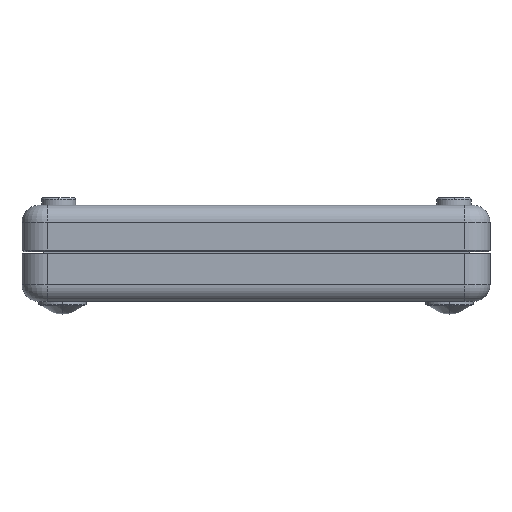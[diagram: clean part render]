
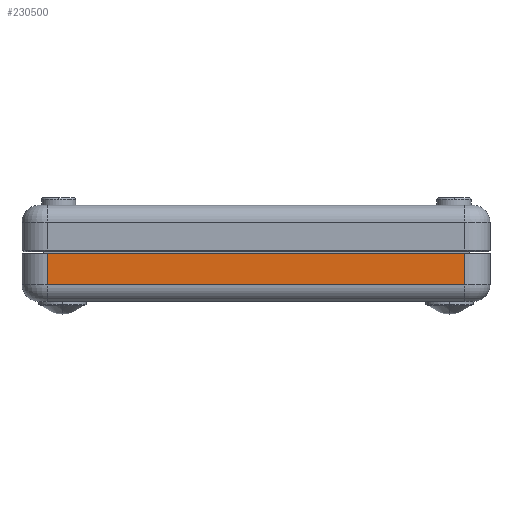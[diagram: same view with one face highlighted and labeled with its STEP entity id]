
A CAD part, front view. The second image highlights one B-rep face of the part: STEP entity #230500.
In plain terms, the highlighted planar face has unit normal (0, -1, 0).
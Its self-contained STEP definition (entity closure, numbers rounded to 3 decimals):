
#230110=CARTESIAN_POINT('',(-1.27,-2.197,-0.699));
#230120=DIRECTION('',(0.,1.,0.));
#230130=DIRECTION('',(-1.,0.,0.));
#230140=AXIS2_PLACEMENT_3D('',#230110,#230120,#230130);
#230150=PLANE('',#230140);
#230160=CARTESIAN_POINT('',(36.83,-2.197,6.215));
#230170=DIRECTION('',(-1.,0.,0.));
#230180=VECTOR('',#230170,1.);
#230190=LINE('',#230160,#230180);
#230200=CARTESIAN_POINT('',(71.638,-2.197,6.215));
#230210=VERTEX_POINT('',#230200);
#230220=CARTESIAN_POINT('',(1.908,-2.197,6.215));
#230230=VERTEX_POINT('',#230220);
#230240=EDGE_CURVE('',#230210,#230230,#230190,.T.);
#230250=ORIENTED_EDGE('',*,*,#230240,.T.);
#230260=CARTESIAN_POINT('',(71.638,-2.197,-0.699));
#230270=DIRECTION('',(0.,0.,-1.));
#230280=VECTOR('',#230270,1.);
#230290=LINE('',#230260,#230280);
#230300=CARTESIAN_POINT('',(71.638,-2.197,0.996));
#230310=VERTEX_POINT('',#230300);
#230320=EDGE_CURVE('',#230210,#230310,#230290,.T.);
#230330=ORIENTED_EDGE('',*,*,#230320,.F.);
#230340=CARTESIAN_POINT('',(36.83,-2.197,0.996));
#230350=DIRECTION('',(-1.,0.,0.));
#230360=VECTOR('',#230350,1.);
#230370=LINE('',#230340,#230360);
#230380=CARTESIAN_POINT('',(1.908,-2.197,0.996))
;
#230390=VERTEX_POINT('',#230380);
#230400=EDGE_CURVE('',#230310,#230390,#230370,.T.);
#230410=ORIENTED_EDGE('',*,*,#230400,.F.);
#230420=CARTESIAN_POINT('',(1.908,-2.197,-0.699)
);
#230430=DIRECTION('',(0.,0.,-1.));
#230440=VECTOR('',#230430,1.);
#230450=LINE('',#230420,#230440);
#230460=EDGE_CURVE('',#230230,#230390,#230450,.T.);
#230470=ORIENTED_EDGE('',*,*,#230460,.T.);
#230480=EDGE_LOOP('',(#230470,#230410,#230330,#230250));
#230490=FACE_OUTER_BOUND('',#230480,.T.);
#230500=ADVANCED_FACE('',(#230490),#230150,.F.);
